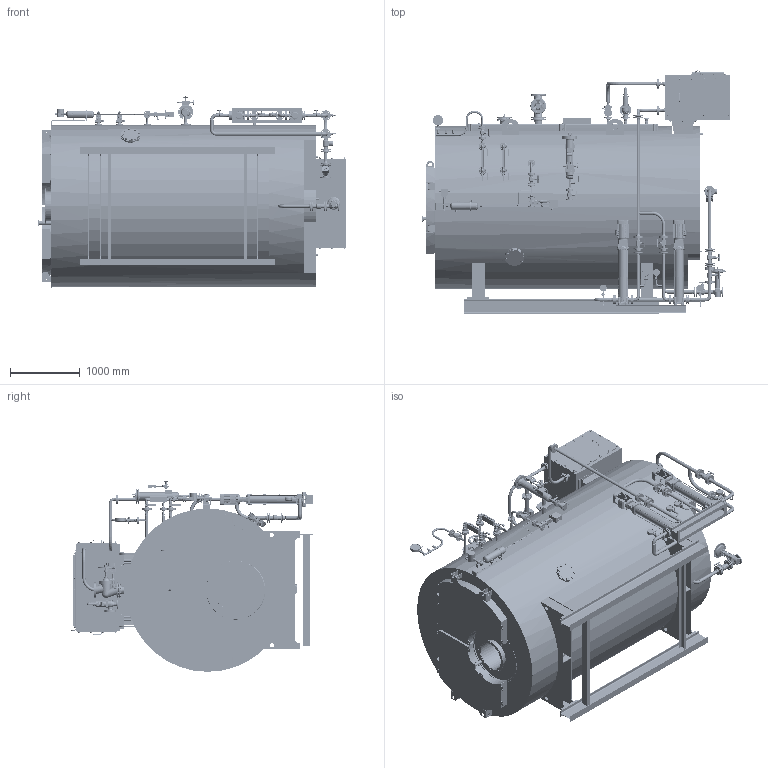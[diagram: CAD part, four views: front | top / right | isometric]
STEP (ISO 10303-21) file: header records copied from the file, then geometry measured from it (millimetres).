
FILE_DESCRIPTION(('STEP AP214'), '1');
FILE_NAME('Êîòåë IGNIS P-3000 ñ îáâÿçêîé îäíèì òåëîì (06.24)', '', ('UNSPECIFIED'), ('UNSPECIFIED'), 'ASCON STEP Converter 1.6', 'ASCON Math Kernel', '');
FILE_SCHEMA(('AUTOMOTIVE_DESIGN { 1 0 10303 214 3 1 1}'));
Length unit declared in the file: millimetre
Bounding box: 4421 x 3482.27 x 2746 mm (x, y, z)
Volume: 407199508.6 mm3; surface area: 159854335.6 mm2
Topology: 167 solids, 172 shells, 21181 faces, 51283 edges, 32255 vertices
Faces by surface type: plane 11266, cylinder 4457, bspline 3288, cone 1505, torus 539, sphere 118, revolution 8
Full cylindrical faces by diameter (mm): 0.99 x4, 1.425 x1, 2.093 x4, 3 x3, 3.014 x1, 4.143 x4, 4.5 x4, 5 x9, 5.966 x1, 6 x95, 6.6 x2, 6.647 x4, 7 x6, 8 x50, 8.376 x16, 8.4 x4, 8.7 x8, 9 x5, 10 x210, 10.072 x4, 10.492 x2, 10.7 x8, 11 x150, 11.63 x6, 12 x132, 12.5 x8, 13 x49, 13.3 x4, 13.5 x34, 14 x219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
Entity records: 1474408 total; most frequent: CARTESIAN_POINT 855174, ORIENTED_EDGE 93592, DIRECTION 80451, EDGE_CURVE 46796, VERTEX_POINT 32057, EDGE_LOOP 29764, AXIS2_PLACEMENT_3D 29349, FACE_BOUND 23301
